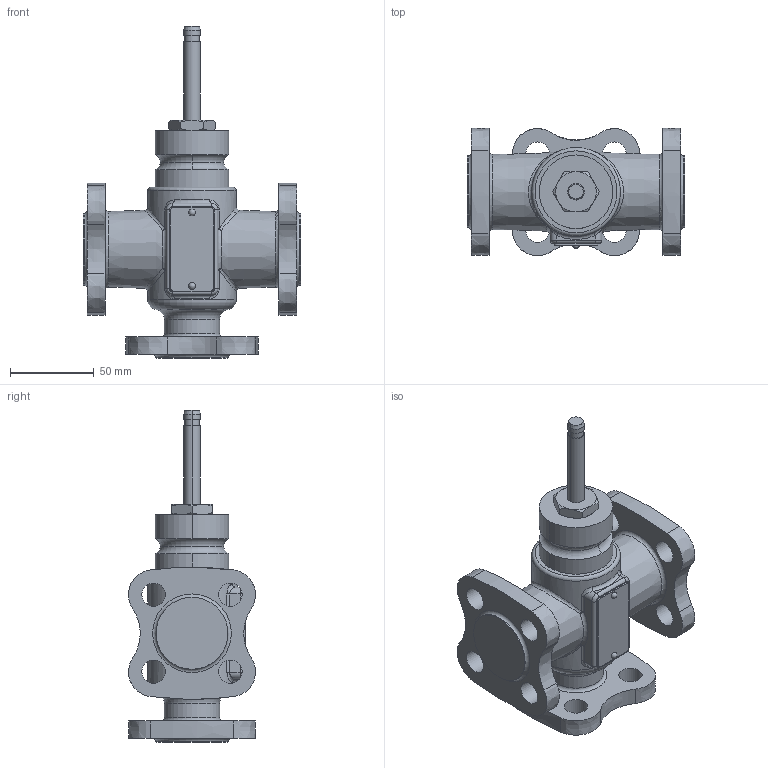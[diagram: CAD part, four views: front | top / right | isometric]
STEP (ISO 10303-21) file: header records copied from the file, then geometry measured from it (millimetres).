
FILE_DESCRIPTION(/* description */ ('Step214'),/* implementation_level */ '2;1');
FILE_NAME(/* name */ 'VXF32_42 DN15 RF.stp',/* time_stamp */ '2015-11-02T16:14:16+01:00',/* author */ (''),/* organization */ ('Siemens'),/* preprocessor_version */ 'ST-DEVELOPER v15',/* originating_system */ 'SIEMENS PLM Software NX 8.5',/* authorisation */ 'for Duktil only');
FILE_SCHEMA (('AUTOMOTIVE_DESIGN { 1 0 10303 214 3 1 1 1 }'));
Length unit declared in the file: millimetre
Products named in the file (1): Volc1858999870fj
Bounding box: 130 x 75.89 x 198.5 mm (x, y, z)
Volume: 496841.8 mm3; surface area: 69089.4 mm2
Topology: 1 solids, 1 shells, 139 faces, 344 edges, 217 vertices
Faces by surface type: cylinder 43, plane 31, extrusion 24, torus 19, cone 8, bspline 8, sphere 6
Full cylindrical faces by diameter (mm): 14 x12, 33 x1, 43 x3, 53 x1
Entity records: 5524 total; most frequent: CARTESIAN_POINT 2466, DIRECTION 594, ORIENTED_EDGE 592, EDGE_CURVE 296, AXIS2_PLACEMENT_3D 242, EDGE_LOOP 206, VERTEX_POINT 202, ADVANCED_FACE 139
